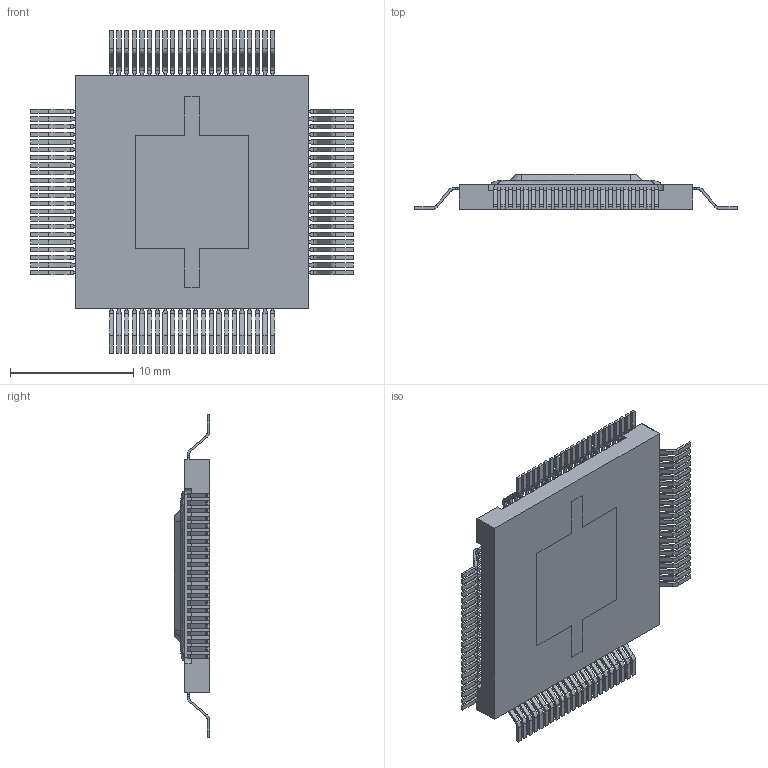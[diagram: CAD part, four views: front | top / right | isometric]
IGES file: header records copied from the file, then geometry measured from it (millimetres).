
Start section: IGES file generated from Kompas 1.1 for Windows drawing by the IGES translator from Ascon Ltd., translator version IGESOUT-5.1.
Global section: file name: D:\Work\3D\4235.88-1\1273ÏÀ13Ò.igs; native system: Kompas( 32 bit ) for Windows; preprocessor: 1.0; author: Ïîëüçîâàòåëü Windows; organization: unknown; date: -17811117:080712; units: millimetre
Bounding box: 26.2 x 2.85 x 26.2 mm (x, y, z)
Volume: 832.8 mm3; surface area: 2049.8 mm2
Topology: 135 solids, 135 shells, 2916 faces, 7824 edges, 5212 vertices
Faces by surface type: bspline 2245, revolution 661, extrusion 10
